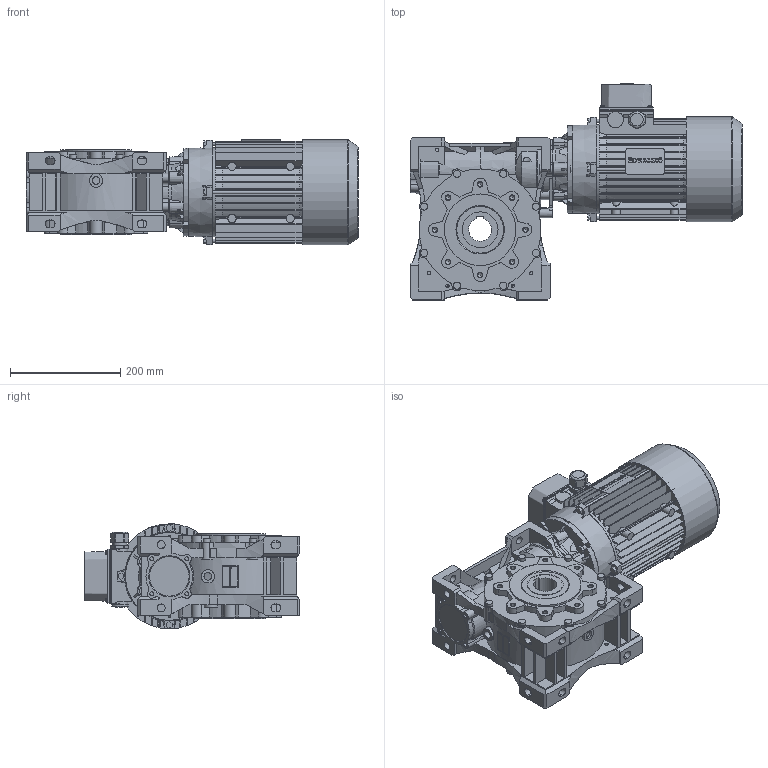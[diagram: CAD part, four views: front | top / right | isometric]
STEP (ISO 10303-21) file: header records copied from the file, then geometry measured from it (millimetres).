
FILE_DESCRIPTION(/* description */ ('STEP AP203'),/* implementation_level */ '2;1');
FILE_NAME(/* name */ 'NMRVP_110_160x28_42_NO_NO_-_-_NO_-_-_-_NO_TP_100_100LA41-_-----IC411NONO------STD',/* time_stamp */ '2025-12-05T02:38:41+01:00',/* author */ ('License CC BY-ND 4.0'),/* organization */ ('CADENAS'),/* preprocessor_version */ 'ST-DEVELOPER v20',/* originating_system */ 'PARTsolutions',/* authorisation */ ' ');
FILE_SCHEMA (('CONFIG_CONTROL_DESIGN'));
Length unit declared in the file: millimetre
Products named in the file (13): NMRVP 110 160x28 42 NO NO - - NO - - - NO TP 100 100LA41-(-----IC411N
ONO------STD); W.110.01.M; 110-42 (155); W.110.14.28.M-p; 110100/112 B14; FLANGIA_TP100B14-; CARCASSA_TP100LA4100IC411B1428X60NONO--; COPRIMORSETTIERA_TP100A002; PRESSACAVO_3; COP_TP_100LA4_IC411_NO_-_-_-_-_STD; TIPPO_25; ALBERO_TP10028X60NO; 110-65
Assembly tree (12 placements, depth 2):
  NMRVP 110 160x28 42 NO NO - - NO - - - NO TP 100 100LA41-(-----IC411N
ONO------STD)
    W.110.01.M
    110-42 (155)
    W.110.14.28.M-p
    110100/112 B14
    FLANGIA_TP100B14-
    CARCASSA_TP100LA4100IC411B1428X60NONO--
    COPRIMORSETTIERA_TP100A002
    PRESSACAVO_3
    COP_TP_100LA4_IC411_NO_-_-_-_-_STD
    TIPPO_25
    ALBERO_TP10028X60NO
    110-65
Bounding box: 603.5 x 392.6 x 192.14 mm (x, y, z)
Volume: 15723658.6 mm3; surface area: 1272985.3 mm2
Topology: 12 solids, 16 shells, 3416 faces, 9363 edges, 6172 vertices
Faces by surface type: plane 1801, cylinder 1381, cone 222, torus 6, sphere 5, bspline 1
Full cylindrical faces by diameter (mm): 1.8 x1, 2.02 x1, 5.5 x2, 6 x14, 7.45 x16, 8 x12, 8.376 x17, 10.5 x1, 13 x8, 14 x8, 14.5 x2, 15 x4, 24 x2, 25 x3, 28 x1, 30 x2, 39 x1, 41 x1, 55 x1, 56 x1, 63 x1, 65 x3, 79 x1, 90 x3, 100 x1, 110 x1, 130 x2, 156 x2, 162 x2, 190.9 x1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
Entity records: 108878 total; most frequent: CARTESIAN_POINT 20563, DIRECTION 18777, ORIENTED_EDGE 18270, EDGE_CURVE 9135, AXIS2_PLACEMENT_3D 6722, VERTEX_POINT 6132, LINE 5333, VECTOR 5333
